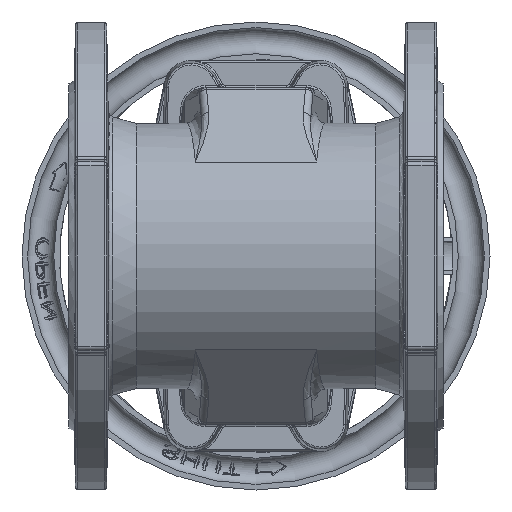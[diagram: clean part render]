
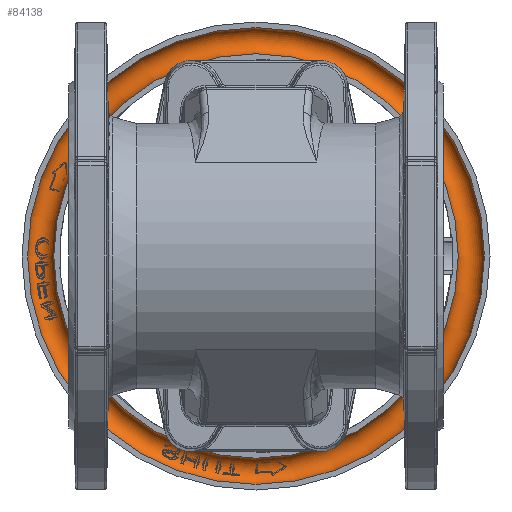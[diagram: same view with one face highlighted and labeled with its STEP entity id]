
A CAD part, front view. The second image highlights one B-rep face of the part: STEP entity #84138.
In plain terms, the highlighted toroidal (fillet/blend) face has major radius 115 mm and minor radius 7 mm.
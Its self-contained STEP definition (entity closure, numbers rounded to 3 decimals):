
#5110 = CARTESIAN_POINT ( 'NONE',  ( 0., 396., 0. ) ) ;
#5112 = AXIS2_PLACEMENT_3D ( 'NONE', #5110, #5808, #5841 ) ;
#5153 = TOROIDAL_SURFACE ( 'NONE', #5112, 115., 7. ) ;
#5808 = DIRECTION ( 'NONE',  ( 0., -1., 0. ) ) ;
#5839 = FACE_OUTER_BOUND ( 'NONE', #84236, .T. ) ;
#5840 = FACE_OUTER_BOUND ( 'NONE', #84183, .T. ) ;
#5841 = DIRECTION ( 'NONE',  ( 0., 0., -1. ) ) ;
#6131 = AXIS2_PLACEMENT_3D ( 'NONE', #6165, #6163, #6161 ) ;
#6151 = DIRECTION ( 'NONE',  ( 0., 0., -1. ) ) ;
#6153 = DIRECTION ( 'NONE',  ( 0., -1., 0. ) ) ;
#6154 = CARTESIAN_POINT ( 'NONE',  ( 0., 396., 0. ) ) ;
#6155 = AXIS2_PLACEMENT_3D ( 'NONE', #6154, #6153, #6151 ) ;
#6161 = DIRECTION ( 'NONE',  ( 0., 0., -1. ) ) ;
#6163 = DIRECTION ( 'NONE',  ( 0., -1., 0. ) ) ;
#6165 = CARTESIAN_POINT ( 'NONE',  ( 0., 396., 0. ) ) ;
#6168 = CIRCLE ( 'NONE', #6155, 108. ) ;
#6175 = CIRCLE ( 'NONE', #6131, 122. ) ;
#82657 = CARTESIAN_POINT ( 'NONE',  ( 0., 396., -108. ) ) ;
#82658 = CARTESIAN_POINT ( 'NONE',  ( 0., 396., -122. ) ) ;
#82659 = VERTEX_POINT ( 'NONE', #82657 ) ;
#82661 = VERTEX_POINT ( 'NONE', #82658 ) ;
#84138 = ADVANCED_FACE ( 'NONE', ( #5840, #5839 ), #5153, .F. ) ;
#84183 = EDGE_LOOP ( 'NONE', ( #84207 ) ) ;
#84207 = ORIENTED_EDGE ( 'NONE', *, *, #84212, .F. ) ;
#84211 = EDGE_CURVE ( 'NONE', #82661, #82661, #6175, .T. ) ;
#84212 = EDGE_CURVE ( 'NONE', #82659, #82659, #6168, .T. ) ;
#84236 = EDGE_LOOP ( 'NONE', ( #84254 ) ) ;
#84254 = ORIENTED_EDGE ( 'NONE', *, *, #84211, .T. ) ;
